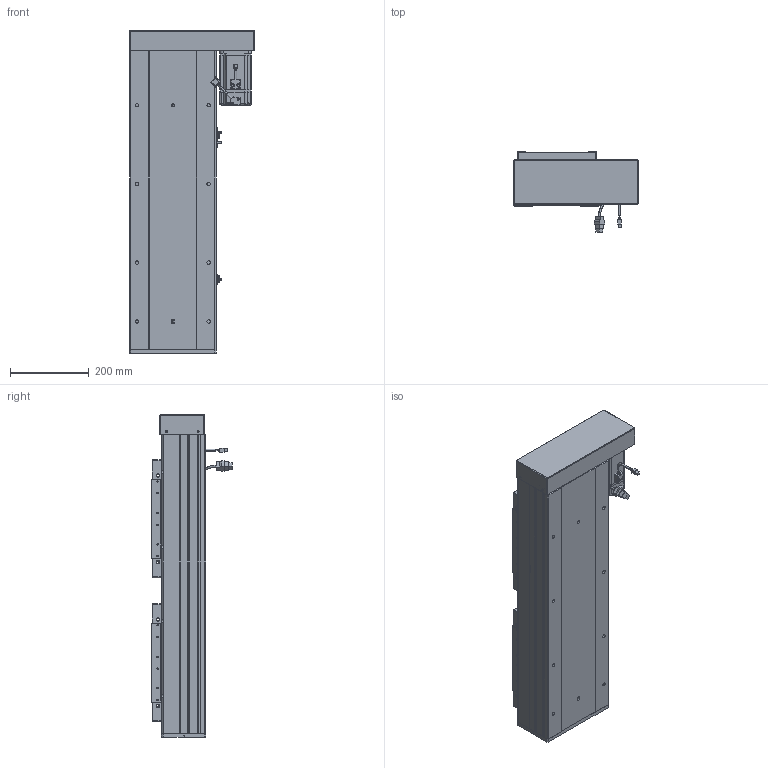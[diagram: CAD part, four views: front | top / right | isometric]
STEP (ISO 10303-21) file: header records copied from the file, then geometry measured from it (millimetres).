
FILE_DESCRIPTION (( 'STEP AP203' ), '1' );
FILE_NAME ('RY220F-L2525-300-RK.SLDASM_350.step', '2022-07-04T01:34:47', ( '' ), ( '' ), 'SwSTEP 2.0', 'SolidWorks 2016', '' );
FILE_SCHEMA (( 'CONFIG_CONTROL_DESIGN' ));
Length unit declared in the file: millimetre
Products named in the file (15): RY220F-詩湍揤踡輸; 覜茼ん672; 侐源滅袉蝶; RY220F-祥凄詩湍-蛌殏-300_350; RY220F-蛌殏奻裔啣-300_350; RY220左右折电机安装板; 滅袉蝶18-24; RY220F-672覜茼んえ; 怢湛750W_ECMA-CX0807ES; RY220F臏賑釱25-32佪裝; RY220F-L2525-300-RK.SLDASM_350; RY220F-滅鳥奻裔; RY220F蛌殏菁釱-300_350; RY220F綴裔啣; RY220酘衵殏萇儂欶
Assembly tree (24 placements, depth 2):
  RY220F-L2525-300-RK.SLDASM_350
    RY220F蛌殏菁釱-300_350
    RY220F-蛌殏奻裔啣-300_350  x2
    怢湛750W_ECMA-CX0807ES
    RY220F臏賑釱25-32佪裝  x2
    RY220F-滅鳥奻裔  x2
    滅袉蝶18-24  x3
    RY220F綴裔啣
    RY220F-祥凄詩湍-蛌殏-300_350
    RY220F-詩湍揤踡輸  x2
    覜茼ん672  x3
    RY220F-672覜茼んえ  x2
    RY220左右折电机安装板
    RY220酘衵殏萇儂欶
    侐源滅袉蝶  x2
Bounding box: 317.5 x 205.27 x 821 mm (x, y, z)
Volume: 10160155.2 mm3; surface area: 2574529.8 mm2
Topology: 25 solids, 25 shells, 2636 faces, 7192 edges, 4484 vertices
Faces by surface type: cylinder 1174, plane 1044, cone 347, bspline 45, sphere 16, torus 10
Entity records: 65080 total; most frequent: CARTESIAN_POINT 18057, ORIENTED_EDGE 9550, DIRECTION 9140, EDGE_CURVE 4775, AXIS2_PLACEMENT_3D 3218, VERTEX_POINT 3100, LINE 2704, VECTOR 2704
